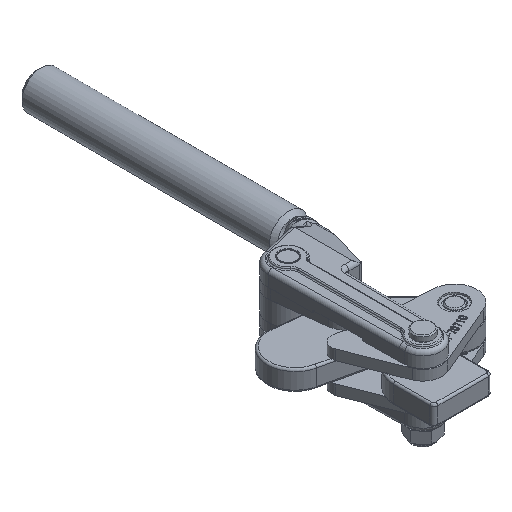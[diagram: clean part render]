
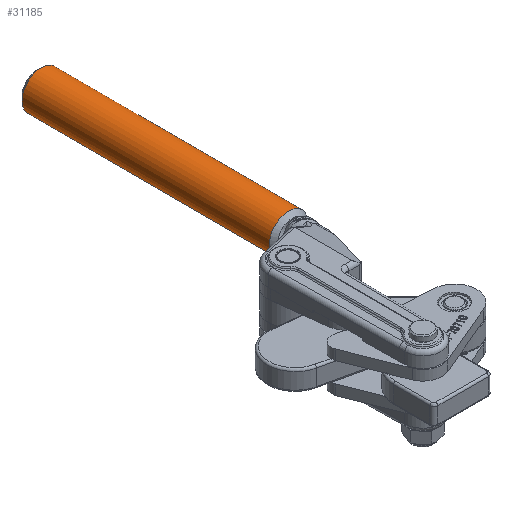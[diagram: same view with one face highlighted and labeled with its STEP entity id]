
A CAD part, isometric view. The second image highlights one B-rep face of the part: STEP entity #31185.
In plain terms, the highlighted cylindrical face has radius 9.5 mm (diameter 19 mm), a full revolution.
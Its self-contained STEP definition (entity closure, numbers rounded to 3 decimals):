
#2244=CYLINDRICAL_SURFACE('',#33663,9.5);
#3332=LINE('',#51572,#6250);
#6250=VECTOR('',#38607,9.5);
#8830=FACE_OUTER_BOUND('',#10563,.T.);
#10563=EDGE_LOOP('',(#24130,#24131,#24132,#24133,#24134,#24135,#24136));
#12451=CIRCLE('',#33657,9.5);
#12452=CIRCLE('',#33658,9.5);
#12456=CIRCLE('',#33662,9.5);
#12457=CIRCLE('',#33664,9.5);
#12458=CIRCLE('',#33665,9.5);
#14271=VERTEX_POINT('',#51557);
#14272=VERTEX_POINT('',#51558);
#14273=VERTEX_POINT('',#51560);
#14277=VERTEX_POINT('',#51571);
#14278=VERTEX_POINT('',#51573);
#17920=EDGE_CURVE('',#14271,#14272,#12451,.T.);
#17921=EDGE_CURVE('',#14273,#14271,#12452,.T.);
#17926=EDGE_CURVE('',#14272,#14273,#12456,.T.);
#17927=EDGE_CURVE('',#14272,#14277,#3332,.T.);
#17928=EDGE_CURVE('',#14277,#14278,#12457,.T.);
#17929=EDGE_CURVE('',#14278,#14277,#12458,.T.);
#24130=ORIENTED_EDGE('',*,*,#17920,.T.);
#24131=ORIENTED_EDGE('',*,*,#17927,.T.);
#24132=ORIENTED_EDGE('',*,*,#17928,.T.);
#24133=ORIENTED_EDGE('',*,*,#17929,.T.);
#24134=ORIENTED_EDGE('',*,*,#17927,.F.);
#24135=ORIENTED_EDGE('',*,*,#17926,.T.);
#24136=ORIENTED_EDGE('',*,*,#17921,.T.);
#31185=ADVANCED_FACE('',(#8830),#2244,.T.);
#33657=AXIS2_PLACEMENT_3D('',#51559,#38592,#38593);
#33658=AXIS2_PLACEMENT_3D('',#51561,#38594,#38595);
#33662=AXIS2_PLACEMENT_3D('',#51569,#38603,#38604);
#33663=AXIS2_PLACEMENT_3D('',#51570,#38605,#38606);
#33664=AXIS2_PLACEMENT_3D('',#51574,#38608,#38609);
#33665=AXIS2_PLACEMENT_3D('',#51575,#38610,#38611);
#38592=DIRECTION('center_axis',(0.,-1.,0.));
#38593=DIRECTION('ref_axis',(0.,0.,-1.));
#38594=DIRECTION('center_axis',(0.,-1.,0.));
#38595=DIRECTION('ref_axis',(0.,0.,-1.));
#38603=DIRECTION('center_axis',(0.,-1.,0.));
#38604=DIRECTION('ref_axis',(0.,0.,-1.));
#38605=DIRECTION('center_axis',(0.,1.,0.));
#38606=DIRECTION('ref_axis',(-1.,0.,0.));
#38607=DIRECTION('',(0.,-1.,0.));
#38608=DIRECTION('center_axis',(0.,1.,0.));
#38609=DIRECTION('ref_axis',(-1.,0.,0.));
#38610=DIRECTION('center_axis',(0.,1.,0.));
#38611=DIRECTION('ref_axis',(-1.,0.,0.));
#51557=CARTESIAN_POINT('',(18.855,218.256,0.));
#51558=CARTESIAN_POINT('',(37.855,218.256,0.));
#51559=CARTESIAN_POINT('Origin',(28.355,218.256,0.));
#51560=CARTESIAN_POINT('',(28.355,218.256,9.5));
#51561=CARTESIAN_POINT('Origin',(28.355,218.256,0.));
#51569=CARTESIAN_POINT('Origin',(28.355,218.256,0.));
#51570=CARTESIAN_POINT('Origin',(28.355,102.222,0.));
#51571=CARTESIAN_POINT('',(37.855,95.256,0.));
#51572=CARTESIAN_POINT('',(37.855,102.222,0.));
#51573=CARTESIAN_POINT('',(18.855,95.256,0.));
#51574=CARTESIAN_POINT('Origin',(28.355,95.256,0.));
#51575=CARTESIAN_POINT('Origin',(28.355,95.256,0.));
